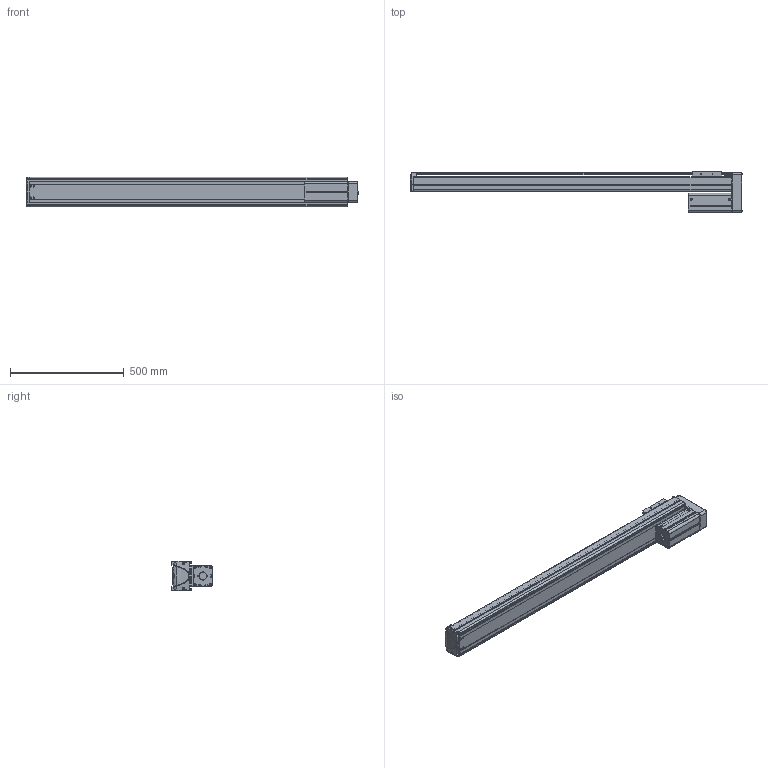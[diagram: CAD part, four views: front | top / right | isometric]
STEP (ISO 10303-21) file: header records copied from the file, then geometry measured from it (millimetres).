
FILE_DESCRIPTION((''),'2;1');
FILE_NAME('BE30E-UU-M_B-C0_IGS_PRT','2017-06-17T',(' '),(''),'PRO/ENGINEER BY PARAMETRIC TECHNOLOGY CORPORATION, 2015030','PRO/ENGINEER BY PARAMETRIC TECHNOLOGY CORPORATION, 2015030','');
FILE_SCHEMA(('CONFIG_CONTROL_DESIGN'));
Length unit declared in the file: millimetre
Products named in the file (1): BE30E-UU-M_B-C0_IGS_PRT
Bounding box: 1461.9 x 180 x 130 mm (x, y, z)
Volume: 4725720.2 mm3; surface area: 1989605 mm2
Topology: 2 solids, 136 shells, 2096 faces, 5676 edges, 3689 vertices
Faces by surface type: plane 1003, cylinder 899, cone 105, torus 37, bspline 28, sphere 24
Entity records: 68172 total; most frequent: CARTESIAN_POINT 14497, DIRECTION 11338, ORIENTED_EDGE 10766, EDGE_CURVE 5638, AXIS2_PLACEMENT_3D 4015, VERTEX_POINT 3689, VECTOR 3308, LINE 3308
